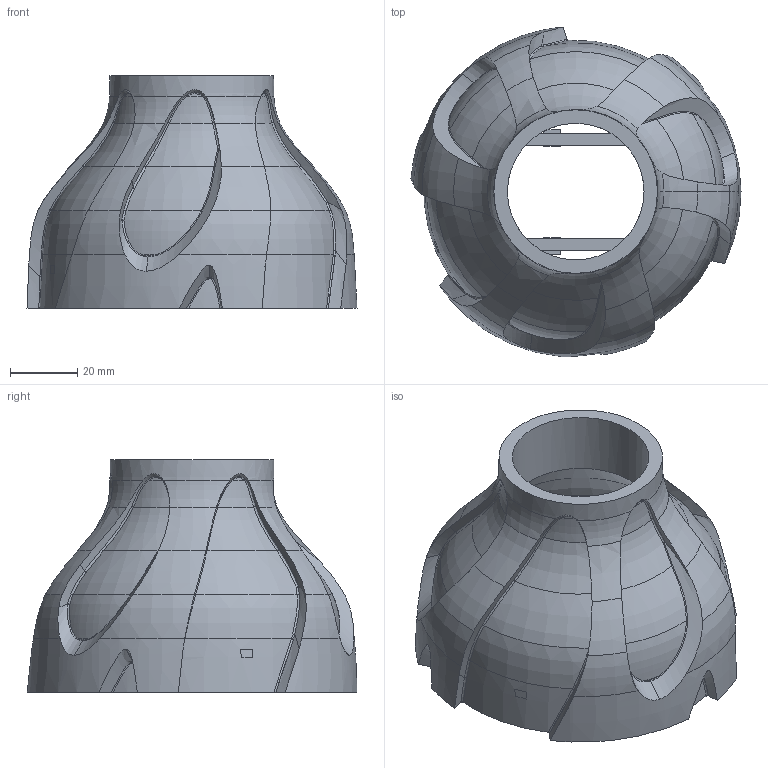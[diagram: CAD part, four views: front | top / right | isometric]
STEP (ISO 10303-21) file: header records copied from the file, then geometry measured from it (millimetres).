
FILE_DESCRIPTION(('Open CASCADE Model'),'2;1');
FILE_NAME('Open CASCADE Shape Model','2026-09-09T22:54:30',('Author'),( 'Open CASCADE'),'Open CASCADE STEP processor 7.9','Open CASCADE 7.9' ,'Unknown');
FILE_SCHEMA(('AUTOMOTIVE_DESIGN { 1 0 10303 214 1 1 1 1 }'));
Products named in the file (1): Open CASCADE STEP translator 7.9 2
Bounding box: 97.82 x 97.71 x 68.85 mm (x, y, z)
Volume: 94386.3 mm3; surface area: 45840.9 mm2
Topology: 1 solids, 1 shells, 413 faces, 1108 edges, 682 vertices
Faces by surface type: plane 162, bspline 101, revolution 77, extrusion 36, cylinder 23, cone 14
Full cylindrical faces by diameter (mm): 40.5 x1
Entity records: 42322 total; most frequent: CARTESIAN_POINT 33634, ORIENTED_EDGE 2184, DIRECTION 1235, EDGE_CURVE 1092, VERTEX_POINT 682, VECTOR 496, LINE 460, FACE_BOUND 422
